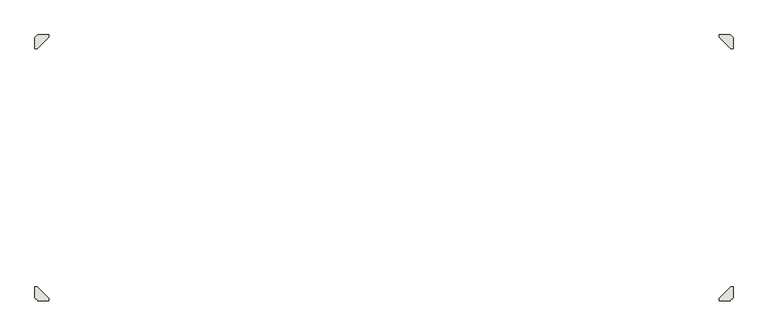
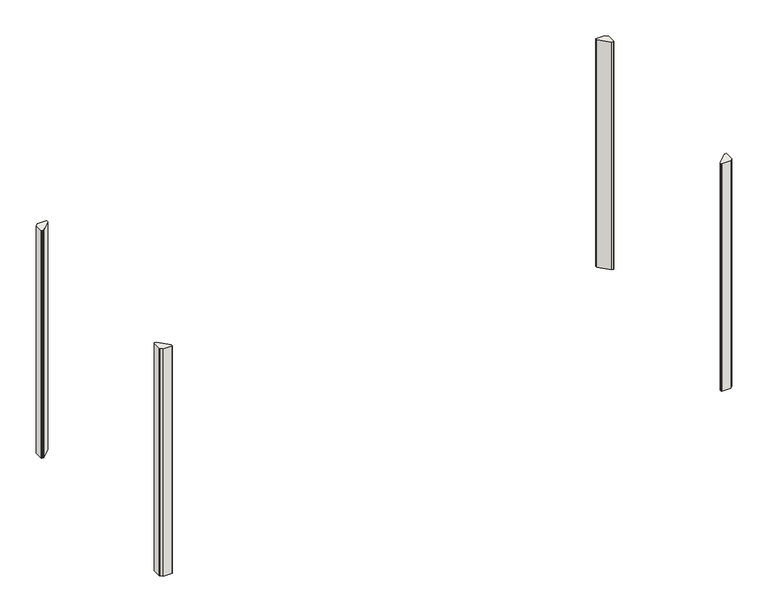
"""IFC4 building model written with IfcOpenShell, lengths in millimetres: wall geometry, Constuction_Wall_Zeppelin-Rental-GmbH_Corner : Constuction_Wall_Zeppelin-Rental-GmbH_Corner."""

import ifcopenshell
import ifcopenshell.guid

model = None  # the IFC model being written
_history = None  # IfcOwnerHistory: only IFC2X3 demands one
_inside = {}  # id of a spatial element -> (the spatial element, [elements in it])
_under = {}  # id of a project, library or spatial element -> (it, [spatial elements below it])
_declared = {}  # id of a project -> (the project, [libraries it declares])
_typed = {}  # id of a type object -> (the type object, [elements of that type])
_made_of = {}  # id of a material, layer set ... -> (it, [elements and type objects made of it])


def new_model(schema):
    """Start an empty IFC model of exactly this schema.

    Asked for "IFC4X3", IfcOpenShell would pick the latest addendum, in which some entities
    have other attributes; the version numbers below select the first issue.
    IFC2X3 requires an IfcOwnerHistory on every rooted entity: one is made here for all.
    """
    global model, _history
    if schema == "IFC4X3":
        model = ifcopenshell.file(schema_version=(4, 3, 0, 0))
    else:
        model = ifcopenshell.file(schema=schema)
    _inside.clear()
    _under.clear()
    _declared.clear()
    _typed.clear()
    _made_of.clear()
    _history = None
    if model.schema == "IFC2X3":
        org = make("IfcOrganization", Name="unknown")
        user = make(
            "IfcPersonAndOrganization",
            ThePerson=make("IfcPerson", FamilyName="unknown"),
            TheOrganization=org,
        )
        app = make(
            "IfcApplication",
            ApplicationDeveloper=org,
            Version="unknown",
            ApplicationFullName="unknown",
            ApplicationIdentifier="unknown",
        )
        _history = make(
            "IfcOwnerHistory",
            OwningUser=user,
            OwningApplication=app,
            ChangeAction="ADDED",
            CreationDate=0,
        )
    return model


def make(cls, **values):
    """One entity of the class cls with the attributes given. An attribute that is None is left unset."""
    return model.create_entity(
        cls, **{name: value for name, value in values.items() if value is not None}
    )


def rooted(cls, **values):
    """An entity with a GlobalId (a new one), such as an element, a storey or a relation."""
    return make(cls, GlobalId=ifcopenshell.guid.new(), OwnerHistory=_history, **values)


def si_unit(unit_type, name, prefix=None):
    """IfcSIUnit, for example si_unit("LENGTHUNIT", "METRE", prefix="MILLI")."""
    return make("IfcSIUnit", UnitType=unit_type, Prefix=prefix, Name=name)


def assignment(units):
    """IfcUnitAssignment: the units of a project."""
    return None if units is None else make("IfcUnitAssignment", Units=units)


def point(xyz):
    """IfcCartesianPoint."""
    return None if xyz is None else make("IfcCartesianPoint", Coordinates=xyz)


def direction(xyz):
    """IfcDirection."""
    return None if xyz is None else make("IfcDirection", DirectionRatios=xyz)


def frame(location, z_axis=None, x_axis=None):
    """IfcAxis2Placement3D, a coordinate frame: its origin and axes. An axis left out is left unset."""
    return make(
        "IfcAxis2Placement3D",
        Location=point(location),
        Axis=direction(z_axis),
        RefDirection=direction(x_axis),
    )


def frame_2d(location, x_axis=None):
    """IfcAxis2Placement2D, a coordinate frame in the plane: its origin and x axis."""
    return make(
        "IfcAxis2Placement2D", Location=point(location), RefDirection=direction(x_axis)
    )


def origin():
    """The frame at (0, 0, 0) with its axes left unset."""
    return frame((0.0, 0.0, 0.0))


def origin_with_axes():
    """The frame at (0, 0, 0) with the z axis (0, 0, 1) and the x axis (1, 0, 0) written out."""
    return frame((0.0, 0.0, 0.0), z_axis=(0.0, 0.0, 1.0), x_axis=(1.0, 0.0, 0.0))


def place(relative_to, where):
    """IfcLocalPlacement: puts the frame where relative to a parent placement (None: the world)."""
    return make(
        "IfcLocalPlacement", PlacementRelTo=relative_to, RelativePlacement=where
    )


def context(
    kind, dimensions, precision=None, world=None, true_north=None, identifier=None
):
    """IfcGeometricRepresentationContext, for example the 3D "Model" context."""
    return make(
        "IfcGeometricRepresentationContext",
        ContextIdentifier=identifier,
        ContextType=kind,
        CoordinateSpaceDimension=dimensions,
        Precision=precision,
        WorldCoordinateSystem=world,
        TrueNorth=true_north,
    )


def project(units=None, contexts=None):
    """IfcProject with its units and contexts."""
    return rooted(
        "IfcProject",
        Name="project",
        RepresentationContexts=contexts,
        UnitsInContext=assignment(units),
    )


def spatial(cls, under=None, at=None, **own):
    """A site, building, storey or space (cls), placed at a placement, below another one or the project."""
    s = rooted(cls, ObjectPlacement=at, **own)
    if under is not None:
        _under.setdefault(under.id(), (under, []))[1].append(s)
    return s


def polyline(points):
    """IfcPolyline through the points."""
    return make("IfcPolyline", Points=[point(p) for p in points])


def circle_curve(where, radius):
    """IfcCircle in the frame where."""
    return make("IfcCircle", Position=where, Radius=radius)


def trimmed(basis, trim1, trim2, sense, master):
    """IfcTrimmedCurve: the piece of a basis curve between two trims."""
    return make(
        "IfcTrimmedCurve",
        BasisCurve=basis,
        Trim1=trim1,
        Trim2=trim2,
        SenseAgreement=sense,
        MasterRepresentation=master,
    )


def segment(curve, same_sense, transition):
    """IfcCompositeCurveSegment."""
    return make(
        "IfcCompositeCurveSegment",
        Transition=transition,
        SameSense=same_sense,
        ParentCurve=curve,
    )


def composite_curve(segments, self_intersect=None):
    """IfcCompositeCurve: segments joined end to end."""
    return make("IfcCompositeCurve", Segments=segments, SelfIntersect=self_intersect)


def outline(outer, holes=None, kind="AREA"):
    """IfcArbitraryClosedProfileDef: a profile drawn as a closed curve; with holes, ...WithVoids."""
    if holes is None:
        return make("IfcArbitraryClosedProfileDef", ProfileType=kind, OuterCurve=outer)
    return make(
        "IfcArbitraryProfileDefWithVoids",
        ProfileType=kind,
        OuterCurve=outer,
        InnerCurves=holes,
    )


def extrude(swept, where, along, depth):
    """IfcExtrudedAreaSolid: the profile swept, set in the frame where, extruded along a direction by depth."""
    return make(
        "IfcExtrudedAreaSolid",
        SweptArea=swept,
        Position=where,
        ExtrudedDirection=direction(along),
        Depth=depth,
    )


def shape(context_of_items, identifier, shape_type, items):
    """IfcShapeRepresentation: the items that make up one representation, for example the "Body"."""
    return make(
        "IfcShapeRepresentation",
        ContextOfItems=context_of_items,
        RepresentationIdentifier=identifier,
        RepresentationType=shape_type,
        Items=items,
    )


def source(mapping_origin, context_of_items, identifier, shape_type, items):
    """IfcRepresentationMap: a shape defined once, which mapped items show again and again."""
    return make(
        "IfcRepresentationMap",
        MappingOrigin=mapping_origin,
        MappedRepresentation=shape(context_of_items, identifier, shape_type, items),
    )


def transform(
    local_origin,
    x_axis=None,
    y_axis=None,
    z_axis=None,
    scale=None,
    scale2=None,
    scale3=None,
    uniform=True,
):
    """IfcCartesianTransformationOperator3D, or its non-uniform kind. x_axis, y_axis, z_axis: its Axis1, 2, 3."""
    if uniform:
        return make(
            "IfcCartesianTransformationOperator3D",
            Axis1=direction(x_axis),
            Axis2=direction(y_axis),
            LocalOrigin=point(local_origin),
            Scale=scale,
            Axis3=direction(z_axis),
        )
    return make(
        "IfcCartesianTransformationOperator3DnonUniform",
        Axis1=direction(x_axis),
        Axis2=direction(y_axis),
        LocalOrigin=point(local_origin),
        Scale=scale,
        Axis3=direction(z_axis),
        Scale2=scale2,
        Scale3=scale3,
    )


def mapped(mapping_source, mapping_target):
    """IfcMappedItem: shows the shape of a source again, moved by a transform."""
    return make(
        "IfcMappedItem", MappingSource=mapping_source, MappingTarget=mapping_target
    )


def made_of(thing, what):
    """Note that an element or type object is made of a material, layer set ...; save() writes the relation."""
    if what is not None:
        _made_of.setdefault(what.id(), (what, []))[1].append(thing)
    return thing


def element(
    cls,
    number,
    at=None,
    inside=None,
    cuts=None,
    type_object=None,
    material=None,
    context=None,
    identifier="Body",
    shape_type=None,
    held_by="IfcProductDefinitionShape",
    body=None,
    shapes=None,
    **own,
):
    """One element of the class cls, such as IfcWall. Its Tag is "e" and its number.

    at: its placement. inside: the storey or other place that contains it. cuts: it is an
    opening in that element (IfcRelVoidsElement). A single representation is given by context,
    identifier, shape_type and body (its items); several are given by shapes. held_by: the class
    of the entity that holds the representations. save() writes the other relations.
    """
    e = rooted(cls, Tag="e%d" % number, ObjectPlacement=at, **own)
    if body is not None:
        shapes = [shape(context, identifier, shape_type, body)]
    if shapes is not None:
        e.Representation = make(held_by, Representations=shapes)
    if inside is not None:
        _inside.setdefault(inside.id(), (inside, []))[1].append(e)
    if cuts is not None:
        rooted(
            "IfcRelVoidsElement", RelatingBuildingElement=cuts, RelatedOpeningElement=e
        )
    if type_object is not None:
        _typed.setdefault(type_object.id(), (type_object, []))[1].append(e)
    return made_of(e, material)


def aggregate(whole, parts):
    """IfcRelAggregates: a whole, such as a stair, and the parts it consists of."""
    return rooted("IfcRelAggregates", RelatingObject=whole, RelatedObjects=parts)


def save(model, path):
    """Write the relations noted so far, then the file.

    IfcRelAggregates (storeys below a building ...), IfcRelContainedInSpatialStructure (elements
    in a storey), IfcRelDefinesByType, IfcRelAssociatesMaterial and IfcRelDeclares: one each for
    every whole, place, type object, material and project.
    """
    for whole, parts in _under.values():
        aggregate(whole, parts)
    for where, things in _inside.values():
        rooted(
            "IfcRelContainedInSpatialStructure",
            RelatedElements=things,
            RelatingStructure=where,
        )
    for kind, things in _typed.values():
        rooted("IfcRelDefinesByType", RelatedObjects=things, RelatingType=kind)
    for what, things in _made_of.values():
        rooted("IfcRelAssociatesMaterial", RelatedObjects=things, RelatingMaterial=what)
    for by, libraries in _declared.values():
        rooted("IfcRelDeclares", RelatingContext=by, RelatedDefinitions=libraries)
    model.write(path)


def wall_747ce406(model_context):
    return source(origin(), model_context, "Body", "SweptSolid", [
        extrude(outline(composite_curve([segment(trimmed(circle_curve(frame_2d((-64493.0717967, 54218.6214668)), 2.0), [point((-64494.4860102, 54220.0356804))], [point((-64493.0717967, 54220.6214668))], False, "CARTESIAN"), True, "CONTINUOUS"), segment(polyline([(-64493.0717967, 54220.6214668), (-64475.9432371, 54220.6214668)]), True, "CONTINUOUS"), segment(trimmed(circle_curve(frame_2d((-64475.9432371, 54218.5784535)), 2.0430133), [point((-64475.9432371, 54220.6214668))], [point((-64473.9002238, 54218.5784535))], False, "CARTESIAN"), True, "CONTINUOUS"), segment(polyline([(-64473.9002238, 54218.5784535), (-64473.9002238, 54128.4498939)]), True, "CONTINUOUS"), segment(trimmed(circle_curve(frame_2d((-64475.9002238, 54128.4498939)), 2.0), [point((-64473.9002238, 54128.4498939))], [point((-64474.4860102, 54127.0356804))], False, "CARTESIAN"), True, "CONTINUOUS"), segment(polyline([(-64474.4860102, 54127.0356804), (-64498.0586248, 54103.4630658)]), True, "CONTINUOUS"), segment(trimmed(circle_curve(frame_2d((-64499.4838228, 54104.8882638)), 2.0155343), [point((-64498.0586248, 54103.4630658))], [point((-64499.4838228, 54102.8727295))], False, "CARTESIAN"), True, "CONTINUOUS"), segment(polyline([(-64499.4838228, 54102.8727295), (-64589.5921841, 54102.8727295)]), True, "CONTINUOUS"), segment(trimmed(circle_curve(frame_2d((-64589.5921841, 54104.9295065)), 2.0567771), [point((-64589.5921841, 54102.8727295))], [point((-64591.6489611, 54104.9295065))], False, "CARTESIAN"), True, "CONTINUOUS"), segment(polyline([(-64591.6489611, 54104.9295065), (-64591.6489611, 54122.0474753)]), True, "CONTINUOUS"), segment(trimmed(circle_curve(frame_2d((-64589.6566213, 54122.0474753)), 1.9923398), [point((-64591.6489611, 54122.0474753))], [point((-64591.0654183, 54123.4562723))], False, "CARTESIAN"), True, "CONTINUOUS"), segment(polyline([(-64591.0654183, 54123.4562723), (-64494.4860102, 54220.0356804)]), True, "CONTINUOUS")], self_intersect=False)), origin_with_axes(), (0.0, 0.0, 1.0), 2459.0),
        extrude(outline(composite_curve([segment(polyline([(-70303.3144374, 54220.0356804), (-70206.7350293, 54123.4562723)]), True, "CONTINUOUS"), segment(trimmed(circle_curve(frame_2d((-70208.1438263, 54122.0474753)), 1.9923398), [point((-70206.7350293, 54123.4562723))], [point((-70206.1514865, 54122.0474753))], False, "CARTESIAN"), True, "CONTINUOUS"), segment(polyline([(-70206.1514865, 54122.0474753), (-70206.1514865, 54104.9295065)]), True, "CONTINUOUS"), segment(trimmed(circle_curve(frame_2d((-70208.2082635, 54104.9295065)), 2.0567771), [point((-70206.1514865, 54104.9295065))], [point((-70208.2082635, 54102.8727295))], False, "CARTESIAN"), True, "CONTINUOUS"), segment(polyline([(-70208.2082635, 54102.8727295), (-70298.3166248, 54102.8727295)]), True, "CONTINUOUS"), segment(trimmed(circle_curve(frame_2d((-70298.3166248, 54104.8882638)), 2.0155343), [point((-70298.3166248, 54102.8727295))], [point((-70299.7418228, 54103.4630658))], False, "CARTESIAN"), True, "CONTINUOUS"), segment(polyline([(-70299.7418228, 54103.4630658), (-70323.3144374, 54127.0356804)]), True, "CONTINUOUS"), segment(trimmed(circle_curve(frame_2d((-70321.9002238, 54128.4498939)), 2.0), [point((-70323.3144374, 54127.0356804))], [point((-70323.9002238, 54128.4498939))], False, "CARTESIAN"), True, "CONTINUOUS"), segment(polyline([(-70323.9002238, 54128.4498939), (-70323.9002238, 54218.5784535)]), True, "CONTINUOUS"), segment(trimmed(circle_curve(frame_2d((-70321.8572105, 54218.5784535)), 2.0430133), [point((-70323.9002238, 54218.5784535))], [point((-70321.8572105, 54220.6214668))], False, "CARTESIAN"), True, "CONTINUOUS"), segment(polyline([(-70321.8572105, 54220.6214668), (-70304.7286509, 54220.6214668)]), True, "CONTINUOUS"), segment(trimmed(circle_curve(frame_2d((-70304.7286509, 54218.6214668)), 2.0), [point((-70304.7286509, 54220.6214668))], [point((-70303.3144374, 54220.0356804))], False, "CARTESIAN"), True, "CONTINUOUS")], self_intersect=False)), origin_with_axes(), (0.0, 0.0, 1.0), 2459.0),
        extrude(outline(composite_curve([segment(polyline([(-64494.4860102, 56215.7099031), (-64591.0654183, 56312.2893112)]), True, "CONTINUOUS"), segment(trimmed(circle_curve(frame_2d((-64589.6566213, 56313.6981082)), 1.9923398), [point((-64591.0654183, 56312.2893112))], [point((-64591.6489611, 56313.6981082))], False, "CARTESIAN"), True, "CONTINUOUS"), segment(polyline([(-64591.6489611, 56313.6981082), (-64591.6489611, 56330.816077)]), True, "CONTINUOUS"), segment(trimmed(circle_curve(frame_2d((-64589.5921841, 56330.816077)), 2.0567771), [point((-64591.6489611, 56330.816077))], [point((-64589.5921841, 56332.872854))], False, "CARTESIAN"), True, "CONTINUOUS"), segment(polyline([(-64589.5921841, 56332.872854), (-64499.4838228, 56332.872854)]), True, "CONTINUOUS"), segment(trimmed(circle_curve(frame_2d((-64499.4838228, 56330.8573197)), 2.0155343), [point((-64499.4838228, 56332.872854))], [point((-64498.0586248, 56332.2825177))], False, "CARTESIAN"), True, "CONTINUOUS"), segment(polyline([(-64498.0586248, 56332.2825177), (-64474.4860102, 56308.7099031)]), True, "CONTINUOUS"), segment(trimmed(circle_curve(frame_2d((-64475.9002238, 56307.2956896)), 2.0), [point((-64474.4860102, 56308.7099031))], [point((-64473.9002238, 56307.2956896))], False, "CARTESIAN"), True, "CONTINUOUS"), segment(polyline([(-64473.9002238, 56307.2956896), (-64473.9002238, 56217.16713)]), True, "CONTINUOUS"), segment(trimmed(circle_curve(frame_2d((-64475.9432371, 56217.16713)), 2.0430133), [point((-64473.9002238, 56217.16713))], [point((-64475.9432371, 56215.1241167))], False, "CARTESIAN"), True, "CONTINUOUS"), segment(polyline([(-64475.9432371, 56215.1241167), (-64493.0717967, 56215.1241167)]), True, "CONTINUOUS"), segment(trimmed(circle_curve(frame_2d((-64493.0717967, 56217.1241167)), 2.0), [point((-64493.0717967, 56215.1241167))], [point((-64494.4860102, 56215.7099031))], False, "CARTESIAN"), True, "CONTINUOUS")], self_intersect=False)), origin_with_axes(), (0.0, 0.0, 1.0), 2459.0),
        extrude(outline(composite_curve([segment(trimmed(circle_curve(frame_2d((-70304.7286509, 56217.1241167)), 2.0), [point((-70303.3144374, 56215.7099031))], [point((-70304.7286509, 56215.1241167))], False, "CARTESIAN"), True, "CONTINUOUS"), segment(polyline([(-70304.7286509, 56215.1241167), (-70321.8572105, 56215.1241167)]), True, "CONTINUOUS"), segment(trimmed(circle_curve(frame_2d((-70321.8572105, 56217.16713)), 2.0430133), [point((-70321.8572105, 56215.1241167))], [point((-70323.9002238, 56217.16713))], False, "CARTESIAN"), True, "CONTINUOUS"), segment(polyline([(-70323.9002238, 56217.16713), (-70323.9002238, 56307.2956896)]), True, "CONTINUOUS"), segment(trimmed(circle_curve(frame_2d((-70321.9002238, 56307.2956896)), 2.0), [point((-70323.9002238, 56307.2956896))], [point((-70323.3144374, 56308.7099031))], False, "CARTESIAN"), True, "CONTINUOUS"), segment(polyline([(-70323.3144374, 56308.7099031), (-70299.7418228, 56332.2825177)]), True, "CONTINUOUS"), segment(trimmed(circle_curve(frame_2d((-70298.3166248, 56330.8573197)), 2.0155343), [point((-70299.7418228, 56332.2825177))], [point((-70298.3166248, 56332.872854))], False, "CARTESIAN"), True, "CONTINUOUS"), segment(polyline([(-70298.3166248, 56332.872854), (-70208.2082635, 56332.872854)]), True, "CONTINUOUS"), segment(trimmed(circle_curve(frame_2d((-70208.2082635, 56330.816077)), 2.0567771), [point((-70208.2082635, 56332.872854))], [point((-70206.1514865, 56330.816077))], False, "CARTESIAN"), True, "CONTINUOUS"), segment(polyline([(-70206.1514865, 56330.816077), (-70206.1514865, 56313.6981082)]), True, "CONTINUOUS"), segment(trimmed(circle_curve(frame_2d((-70208.1438263, 56313.6981082)), 1.9923398), [point((-70206.1514865, 56313.6981082))], [point((-70206.7350293, 56312.2893112))], False, "CARTESIAN"), True, "CONTINUOUS"), segment(polyline([(-70206.7350293, 56312.2893112), (-70303.3144374, 56215.7099031)]), True, "CONTINUOUS")], self_intersect=False)), origin_with_axes(), (0.0, 0.0, 1.0), 2459.0),
    ])


if __name__ == "__main__":
    model = new_model("IFC4")
    model_context = context("Model", 3, world=origin())
    ifc_project = project(units=[si_unit("LENGTHUNIT", "METRE", prefix="MILLI")], contexts=[model_context])
    site = spatial("IfcSite", under=ifc_project)
    building = spatial("IfcBuilding", under=site)
    placement = place(None, origin())
    wall_shape = wall_747ce406(model_context)
    element("IfcWall", 1, ObjectType="Constuction_Wall_Zeppelin-Rental-GmbH_Corner : Constuction_Wall_Zeppelin-Rental-GmbH_Corner", at=placement, inside=building, context=model_context, shape_type="MappedRepresentation", body=[
        mapped(wall_shape, transform((0.0, 0.0, 0.0), x_axis=(1.0, 0.0, 0.0), y_axis=(0.0, 1.0, 0.0), z_axis=(0.0, 0.0, 1.0))),
    ])
    save(model, "model.ifc")
